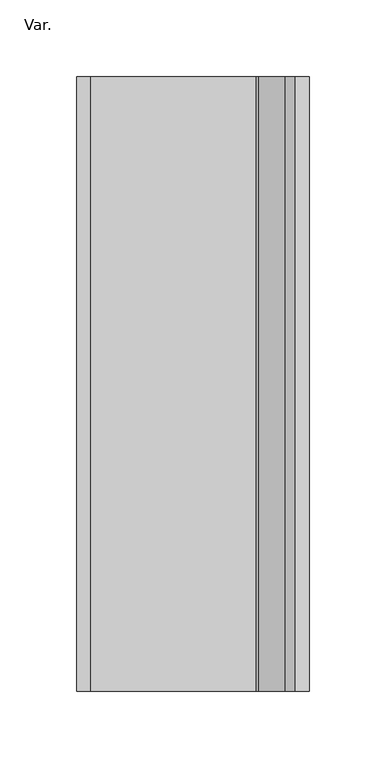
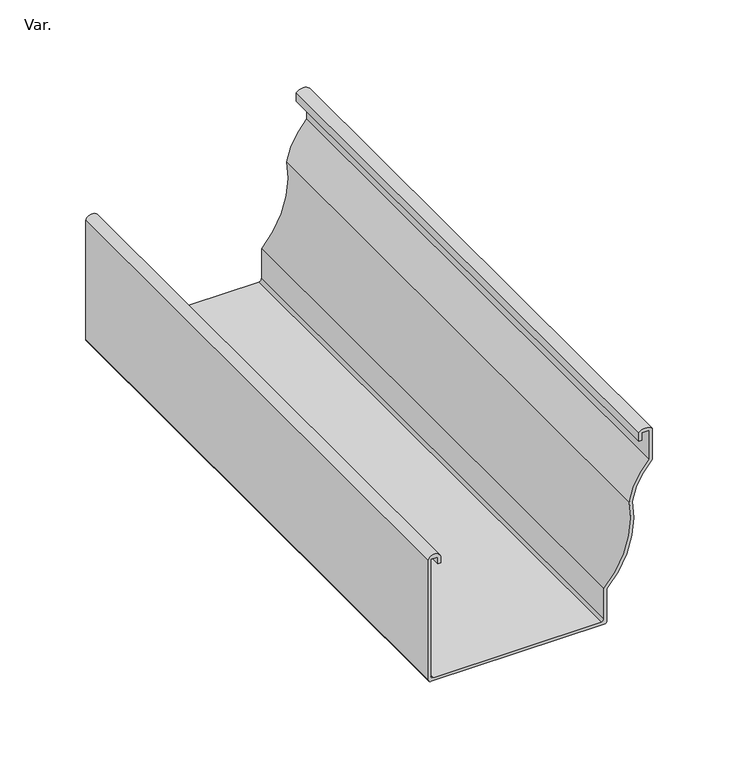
"""IFC4 building model written with IfcOpenShell, lengths in millimetres: pipe fitting geometry, AmancoWavin_Unionesdetubería_CanalesyBajantesZ_NoUsarCanoaColonial : Var.."""

from ifc_helpers import new_model, si_unit, point, frame, frame_2d, origin, place, context, project, spatial, polyline, circle_curve, trimmed, segment, composite_curve, outline, extrude, source, transform, mapped, element, save


def var_51f41bf2(model_context):
    return source(origin(), model_context, "Body", "SweptSolid", [
        extrude(outline(composite_curve([segment(polyline([(3.96, -73.62), (87.0235329, -73.62), (87.0235329, -68.9), (82.2, -68.9), (82.2, -66.88), (86.7908833, -66.88)]), True, "CONTINUOUS"), segment(trimmed(circle_curve(frame_2d((85.4336297, -71.24)), 4.5663703), [point((86.7908833, -66.88))], [point((86.7908833, -75.6))], False, "CARTESIAN"), True, "CONTINUOUS"), segment(polyline([(86.7908833, -75.6), (1.98, -75.6)]), True, "CONTINUOUS"), segment(trimmed(circle_curve(frame_2d((1.98, -73.62)), 1.98), [point((1.98, -75.6))], [point((0.0, -73.62))], False, "CARTESIAN"), True, "CONTINUOUS"), segment(polyline([(0.0, -73.62), (0.0, 43.02)]), True, "CONTINUOUS"), segment(trimmed(circle_curve(frame_2d((1.98, 43.02)), 1.98), [point((0.0, 43.02))], [point((1.98, 45.0))], False, "CARTESIAN"), True, "CONTINUOUS"), segment(polyline([(1.98, 45.0), (24.428298, 45.0)]), True, "CONTINUOUS"), segment(trimmed(circle_curve(frame_2d((69.4907783, -2.2247036)), 65.2748019), [point((24.428298, 45.0))], [point((81.1170628, 62.006358))], False, "CARTESIAN"), True, "CONTINUOUS"), segment(trimmed(circle_curve(frame_2d((72.4461628, 107.8560782)), 46.6624191), [point((81.1170628, 62.006358))], [point((106.1645075, 75.6))], True, "CARTESIAN"), True, "CONTINUOUS"), segment(polyline([(106.1645075, 75.6), (128.1558419, 75.6)]), True, "CONTINUOUS"), segment(trimmed(circle_curve(frame_2d((123.4402264, 71.04)), 6.5597736), [point((128.1558419, 75.6))], [point((128.1558419, 66.48))], False, "CARTESIAN"), True, "CONTINUOUS"), segment(polyline([(128.1558419, 66.48), (122.2, 66.48), (122.2, 68.5), (127.6251189, 68.5), (127.6251189, 73.62), (107.0001189, 73.62)]), True, "CONTINUOUS"), segment(trimmed(circle_curve(frame_2d((72.4461628, 107.8560782)), 48.6424191), [point((107.0001189, 73.62))], [point((81.1107714, 59.9915873))], False, "CARTESIAN"), True, "CONTINUOUS"), segment(trimmed(circle_curve(frame_2d((69.4907783, -2.2247036)), 63.2921092), [point((81.1107714, 59.9915873))], [point((25.2323567, 43.02))], True, "CARTESIAN"), True, "CONTINUOUS"), segment(polyline([(25.2323567, 43.02), (3.96, 43.02)]), True, "CONTINUOUS"), segment(trimmed(circle_curve(frame_2d((3.96, 41.04)), 1.98), [point((3.96, 43.02))], [point((1.98, 41.04))], True, "CARTESIAN"), True, "CONTINUOUS"), segment(polyline([(1.98, 41.04), (1.98, -71.64)]), True, "CONTINUOUS"), segment(trimmed(circle_curve(frame_2d((3.96, -71.64)), 1.98), [point((1.98, -71.64))], [point((3.96, -73.62))], True, "CARTESIAN"), True, "CONTINUOUS")], self_intersect=False)), frame((0.0, 0.0, 0.0), z_axis=(0.0, 1.0, 0.0), x_axis=(0.0, 0.0, 1.0)), (0.0, 0.0, 1.0), 400.0),
    ])


if __name__ == "__main__":
    model = new_model("IFC4")
    model_context = context("Model", 3, world=origin())
    ifc_project = project(units=[si_unit("LENGTHUNIT", "METRE", prefix="MILLI")], contexts=[model_context])
    site = spatial("IfcSite", under=ifc_project)
    building = spatial("IfcBuilding", under=site)
    placement = place(None, origin())
    var_shape = var_51f41bf2(model_context)
    element("IfcPipeFitting", 1, ObjectType="AmancoWavin_Unionesdetubería_CanalesyBajantesZ_NoUsarCanoaColonial : Var.", at=placement, inside=building, context=model_context, shape_type="MappedRepresentation", body=[
        mapped(var_shape, transform((0.0, 0.0, 0.0), x_axis=(1.0, 0.0, 0.0), y_axis=(0.0, 1.0, 0.0), z_axis=(0.0, 0.0, 1.0))),
    ])
    save(model, "model.ifc")
